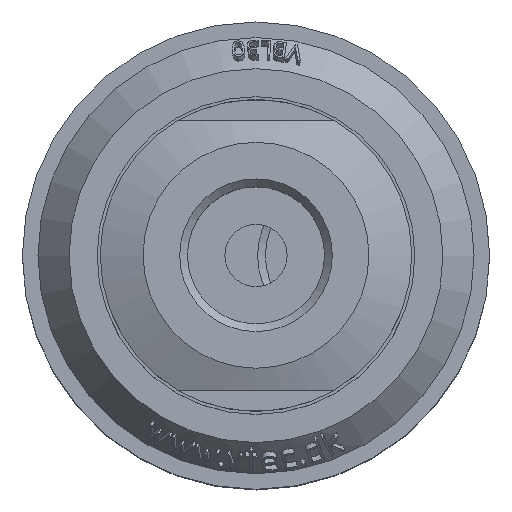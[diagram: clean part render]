
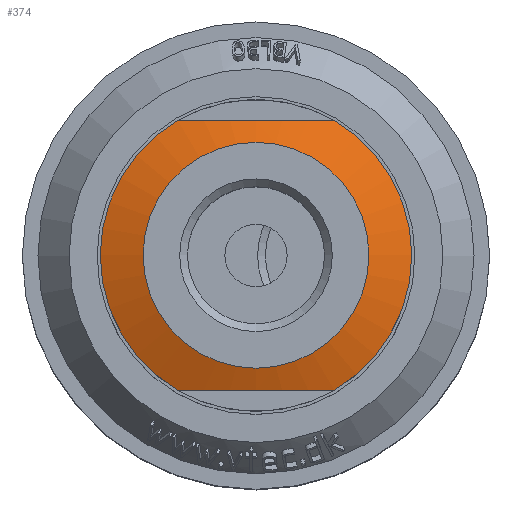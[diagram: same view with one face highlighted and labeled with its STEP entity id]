
A CAD part, top view. The second image highlights one B-rep face of the part: STEP entity #374.
In plain terms, the highlighted conical face has half-angle 70.017 degrees and reference radius 7.25 mm.
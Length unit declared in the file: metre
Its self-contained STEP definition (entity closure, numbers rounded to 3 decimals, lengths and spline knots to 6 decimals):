
#374 = ADVANCED_FACE( '', ( #875, #876 ), #877, .T. );
#875 = FACE_BOUND( '', #4454, .T. );
#876 = FACE_OUTER_BOUND( '', #4455, .T. );
#877 = CONICAL_SURFACE( '', #4456, 0.00725, 1.222 );
#4454 = EDGE_LOOP( '', ( #5624 ) );
#4455 = EDGE_LOOP( '', ( #5625, #5626, #5627, #5628 ) );
#4456 = AXIS2_PLACEMENT_3D( '', #5629, #5630, #5631 );
#5624 = ORIENTED_EDGE( '', *, *, #6208, .T. );
#5625 = ORIENTED_EDGE( '', *, *, #6209, .F. );
#5626 = ORIENTED_EDGE( '', *, *, #6210, .T. );
#5627 = ORIENTED_EDGE( '', *, *, #6211, .F. );
#5628 = ORIENTED_EDGE( '', *, *, #6212, .F. );
#5629 = CARTESIAN_POINT( '', ( 0.005, 0., 0.007153 ) );
#5630 = DIRECTION( '', ( 0., 0., -1. ) );
#5631 = DIRECTION( '', ( -1., 0., 0. ) );
#6208 = EDGE_CURVE( '', #6992, #6992, #6993, .T. );
#6209 = EDGE_CURVE( '', #6994, #6995, #6996, .T. );
#6210 = EDGE_CURVE( '', #6994, #6997, #6998, .T. );
#6211 = EDGE_CURVE( '', #6999, #6997, #7000, .T. );
#6212 = EDGE_CURVE( '', #6995, #6999, #7001, .T. );
#6992 = VERTEX_POINT( '', #9725 );
#6993 = CIRCLE( '', #9726, 0.00725 );
#6994 = VERTEX_POINT( '', #9727 );
#6995 = VERTEX_POINT( '', #9728 );
#6996 = CIRCLE( '', #9729, 0.01 );
#6997 = VERTEX_POINT( '', #9730 );
#6998 = B_SPLINE_CURVE_WITH_KNOTS( '', 3, ( #9731, #9732, #9733, #9734, #9735, #9736, #9737, #9738, #9739, #9740 ), .UNSPECIFIED., .F., .F., ( 4, 2, 2, 2, 4 ), ( 0.008445, 0.010977, 0.01351, 0.016042, 0.018575 ), .UNSPECIFIED. );
#6999 = VERTEX_POINT( '', #9741 );
#7000 = CIRCLE( '', #9742, 0.01 );
#7001 = B_SPLINE_CURVE_WITH_KNOTS( '', 3, ( #9743, #9744, #9745, #9746, #9747, #9748, #9749, #9750, #9751, #9752 ), .UNSPECIFIED., .F., .F., ( 4, 2, 2, 2, 4 ), ( 0.008445, 0.010977, 0.01351, 0.016042, 0.018575 ), .UNSPECIFIED. );
#9725 = CARTESIAN_POINT( '', ( -0.00225, 0., 0.007153 ) );
#9726 = AXIS2_PLACEMENT_3D( '', #10064, #10065, #10066 );
#9727 = CARTESIAN_POINT( '', ( -0.000018, -0.00865, 0.006153 ) );
#9728 = CARTESIAN_POINT( '', ( -0.000018, 0.00865, 0.006153 ) );
#9729 = AXIS2_PLACEMENT_3D( '', #10067, #10068, #10069 );
#9730 = CARTESIAN_POINT( '', ( 0.010018, -0.00865, 0.006153 ) );
#9731 = CARTESIAN_POINT( '', ( -0.000018, -0.00865, 0.006153 ) );
#9732 = CARTESIAN_POINT( '', ( 0.000814, -0.00865, 0.006305 ) );
#9733 = CARTESIAN_POINT( '', ( 0.001655, -0.00865, 0.00643 ) );
#9734 = CARTESIAN_POINT( '', ( 0.003333, -0.00865, 0.0066 ) );
#9735 = CARTESIAN_POINT( '', ( 0.004171, -0.00865, 0.006644 ) );
#9736 = CARTESIAN_POINT( '', ( 0.005844, -0.00865, 0.006644 ) );
#9737 = CARTESIAN_POINT( '', ( 0.00668, -0.00865, 0.006599 ) );
#9738 = CARTESIAN_POINT( '', ( 0.00835, -0.00865, 0.006429 ) );
#9739 = CARTESIAN_POINT( '', ( 0.009185, -0.00865, 0.006305 ) );
#9740 = CARTESIAN_POINT( '', ( 0.010018, -0.00865, 0.006153 ) );
#9741 = CARTESIAN_POINT( '', ( 0.010018, 0.00865, 0.006153 ) );
#9742 = AXIS2_PLACEMENT_3D( '', #10070, #10071, #10072 );
#9743 = CARTESIAN_POINT( '', ( -0.000018, 0.00865, 0.006153 ) );
#9744 = CARTESIAN_POINT( '', ( 0.000814, 0.00865, 0.006305 ) );
#9745 = CARTESIAN_POINT( '', ( 0.001655, 0.00865, 0.00643 ) );
#9746 = CARTESIAN_POINT( '', ( 0.003333, 0.00865, 0.0066 ) );
#9747 = CARTESIAN_POINT( '', ( 0.004171, 0.00865, 0.006644 ) );
#9748 = CARTESIAN_POINT( '', ( 0.005844, 0.00865, 0.006644 ) );
#9749 = CARTESIAN_POINT( '', ( 0.00668, 0.00865, 0.006599 ) );
#9750 = CARTESIAN_POINT( '', ( 0.00835, 0.00865, 0.006429 ) );
#9751 = CARTESIAN_POINT( '', ( 0.009185, 0.00865, 0.006305 ) );
#9752 = CARTESIAN_POINT( '', ( 0.010018, 0.00865, 0.006153 ) );
#10064 = CARTESIAN_POINT( '', ( 0.005, 0., 0.007153 ) );
#10065 = DIRECTION( '', ( 0., 0., -1. ) );
#10066 = DIRECTION( '', ( -1., 0., 0. ) );
#10067 = CARTESIAN_POINT( '', ( 0.005, 0., 0.006153 ) );
#10068 = DIRECTION( '', ( 0., 0., -1. ) );
#10069 = DIRECTION( '', ( -1., 0., 0. ) );
#10070 = CARTESIAN_POINT( '', ( 0.005, 0., 0.006153 ) );
#10071 = DIRECTION( '', ( 0., 0., -1. ) );
#10072 = DIRECTION( '', ( -1., 0., 0. ) );
